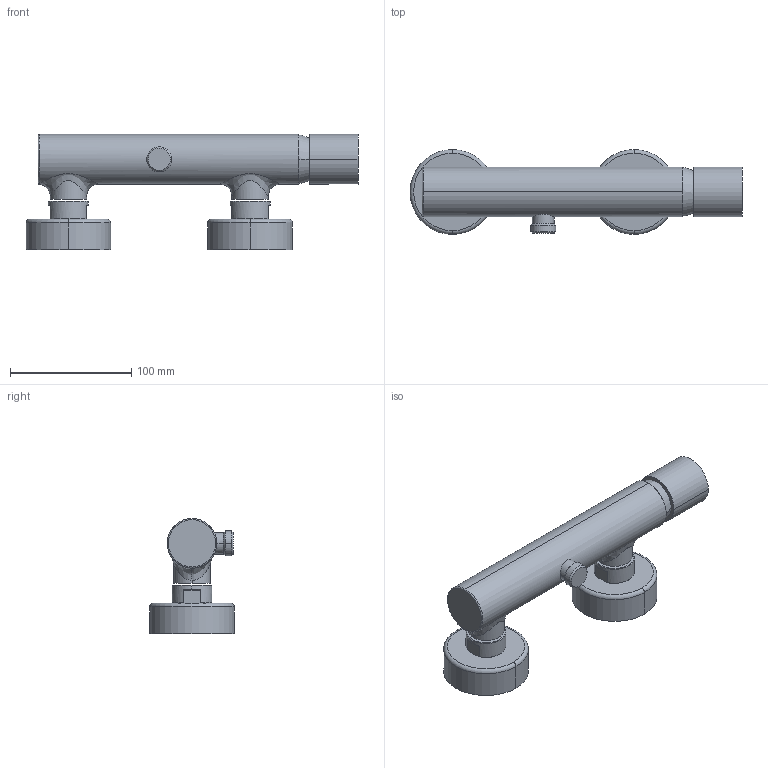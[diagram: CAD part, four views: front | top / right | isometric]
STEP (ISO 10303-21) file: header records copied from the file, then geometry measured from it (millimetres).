
FILE_DESCRIPTION((''),'2;1');
FILE_NAME('3D_SW0001','2014-02-18T',('ivanv'),(''),'PRO/ENGINEER BY PARAMETRIC TECHNOLOGY CORPORATION, 2012130','PRO/ENGINEER BY PARAMETRIC TECHNOLOGY CORPORATION, 2012130','');
FILE_SCHEMA(('CONFIG_CONTROL_DESIGN'));
Length unit declared in the file: millimetre
Products named in the file (1): 3D_SW0001
Bounding box: 274.1 x 70 x 95 mm (x, y, z)
Volume: 361749.6 mm3; surface area: 115685.4 mm2
Topology: 3 solids, 4 shells, 288 faces, 731 edges, 461 vertices
Faces by surface type: plane 103, cylinder 102, cone 42, bspline 22, torus 15, sphere 4
Entity records: 13114 total; most frequent: CARTESIAN_POINT 6313, ORIENTED_EDGE 1450, DIRECTION 1377, EDGE_CURVE 725, AXIS2_PLACEMENT_3D 556, VERTEX_POINT 461, EDGE_LOOP 318, CIRCLE 290
